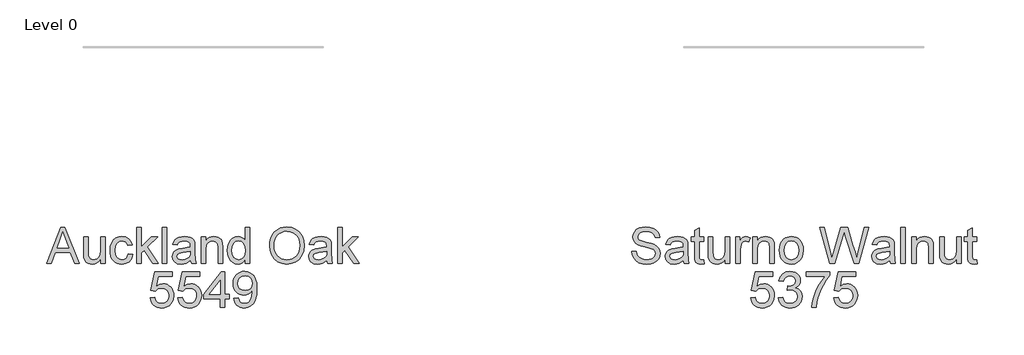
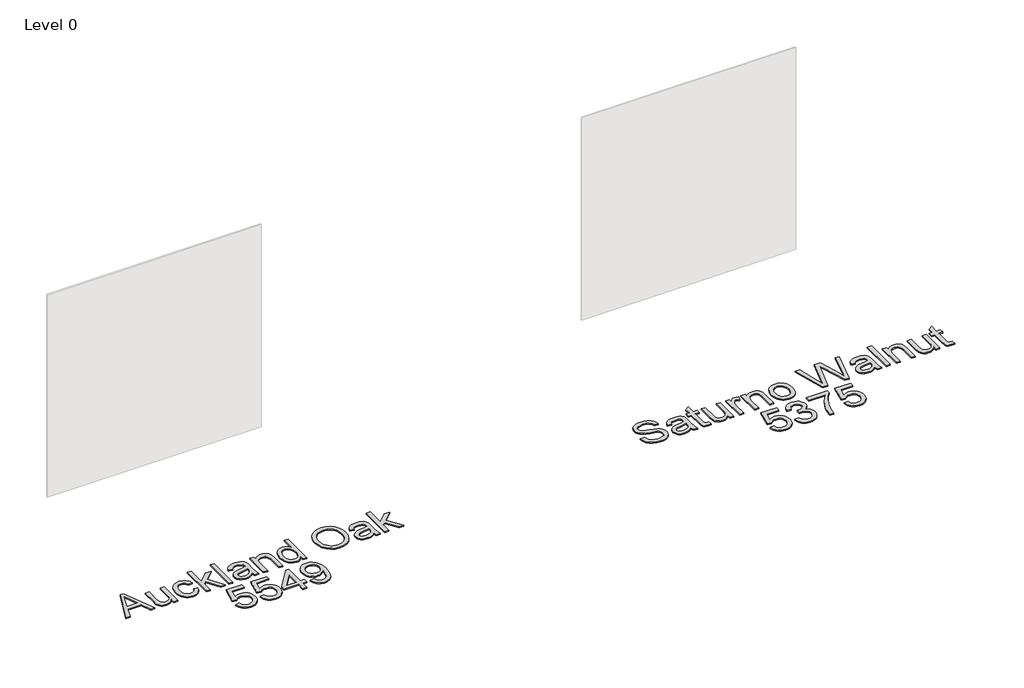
# One storey, part 6 of 16: 2 proxies.
"""IFC4 building model written with IfcOpenShell, lengths in millimetres."""

import ifcopenshell
import ifcopenshell.guid

model = None  # the IFC model being written
_history = None  # IfcOwnerHistory: only IFC2X3 demands one
_inside = {}  # id of a spatial element -> (the spatial element, [elements in it])
_under = {}  # id of a project, library or spatial element -> (it, [spatial elements below it])
_declared = {}  # id of a project -> (the project, [libraries it declares])
_typed = {}  # id of a type object -> (the type object, [elements of that type])
_made_of = {}  # id of a material, layer set ... -> (it, [elements and type objects made of it])


def new_model(schema):
    """Start an empty IFC model of exactly this schema.

    Asked for "IFC4X3", IfcOpenShell would pick the latest addendum, in which some entities
    have other attributes; the version numbers below select the first issue.
    IFC2X3 requires an IfcOwnerHistory on every rooted entity: one is made here for all.
    """
    global model, _history
    if schema == "IFC4X3":
        model = ifcopenshell.file(schema_version=(4, 3, 0, 0))
    else:
        model = ifcopenshell.file(schema=schema)
    _inside.clear()
    _under.clear()
    _declared.clear()
    _typed.clear()
    _made_of.clear()
    _history = None
    if model.schema == "IFC2X3":
        org = make("IfcOrganization", Name="unknown")
        user = make(
            "IfcPersonAndOrganization",
            ThePerson=make("IfcPerson", FamilyName="unknown"),
            TheOrganization=org,
        )
        app = make(
            "IfcApplication",
            ApplicationDeveloper=org,
            Version="unknown",
            ApplicationFullName="unknown",
            ApplicationIdentifier="unknown",
        )
        _history = make(
            "IfcOwnerHistory",
            OwningUser=user,
            OwningApplication=app,
            ChangeAction="ADDED",
            CreationDate=0,
        )
    return model


def make(cls, **values):
    """One entity of the class cls with the attributes given. An attribute that is None is left unset."""
    return model.create_entity(
        cls, **{name: value for name, value in values.items() if value is not None}
    )


def rooted(cls, **values):
    """An entity with a GlobalId (a new one), such as an element, a storey or a relation."""
    return make(cls, GlobalId=ifcopenshell.guid.new(), OwnerHistory=_history, **values)


def si_unit(unit_type, name, prefix=None):
    """IfcSIUnit, for example si_unit("LENGTHUNIT", "METRE", prefix="MILLI")."""
    return make("IfcSIUnit", UnitType=unit_type, Prefix=prefix, Name=name)


def assignment(units):
    """IfcUnitAssignment: the units of a project."""
    return None if units is None else make("IfcUnitAssignment", Units=units)


def point(xyz):
    """IfcCartesianPoint."""
    return None if xyz is None else make("IfcCartesianPoint", Coordinates=xyz)


def direction(xyz):
    """IfcDirection."""
    return None if xyz is None else make("IfcDirection", DirectionRatios=xyz)


def frame(location, z_axis=None, x_axis=None):
    """IfcAxis2Placement3D, a coordinate frame: its origin and axes. An axis left out is left unset."""
    return make(
        "IfcAxis2Placement3D",
        Location=point(location),
        Axis=direction(z_axis),
        RefDirection=direction(x_axis),
    )


def origin():
    """The frame at (0, 0, 0) with its axes left unset."""
    return frame((0.0, 0.0, 0.0))


def origin_with_axes():
    """The frame at (0, 0, 0) with the z axis (0, 0, 1) and the x axis (1, 0, 0) written out."""
    return frame((0.0, 0.0, 0.0), z_axis=(0.0, 0.0, 1.0), x_axis=(1.0, 0.0, 0.0))


def place(relative_to, where):
    """IfcLocalPlacement: puts the frame where relative to a parent placement (None: the world)."""
    return make(
        "IfcLocalPlacement", PlacementRelTo=relative_to, RelativePlacement=where
    )


def context(
    kind, dimensions, precision=None, world=None, true_north=None, identifier=None
):
    """IfcGeometricRepresentationContext, for example the 3D "Model" context."""
    return make(
        "IfcGeometricRepresentationContext",
        ContextIdentifier=identifier,
        ContextType=kind,
        CoordinateSpaceDimension=dimensions,
        Precision=precision,
        WorldCoordinateSystem=world,
        TrueNorth=true_north,
    )


def project(units=None, contexts=None):
    """IfcProject with its units and contexts."""
    return rooted(
        "IfcProject",
        Name="project",
        RepresentationContexts=contexts,
        UnitsInContext=assignment(units),
    )


def spatial(cls, under=None, at=None, **own):
    """A site, building, storey or space (cls), placed at a placement, below another one or the project."""
    s = rooted(cls, ObjectPlacement=at, **own)
    if under is not None:
        _under.setdefault(under.id(), (under, []))[1].append(s)
    return s


def polyline(points):
    """IfcPolyline through the points."""
    return make("IfcPolyline", Points=[point(p) for p in points])


def outline(outer, holes=None, kind="AREA"):
    """IfcArbitraryClosedProfileDef: a profile drawn as a closed curve; with holes, ...WithVoids."""
    if holes is None:
        return make("IfcArbitraryClosedProfileDef", ProfileType=kind, OuterCurve=outer)
    return make(
        "IfcArbitraryProfileDefWithVoids",
        ProfileType=kind,
        OuterCurve=outer,
        InnerCurves=holes,
    )


def extrude(swept, where, along, depth):
    """IfcExtrudedAreaSolid: the profile swept, set in the frame where, extruded along a direction by depth."""
    return make(
        "IfcExtrudedAreaSolid",
        SweptArea=swept,
        Position=where,
        ExtrudedDirection=direction(along),
        Depth=depth,
    )


def shape(context_of_items, identifier, shape_type, items):
    """IfcShapeRepresentation: the items that make up one representation, for example the "Body"."""
    return make(
        "IfcShapeRepresentation",
        ContextOfItems=context_of_items,
        RepresentationIdentifier=identifier,
        RepresentationType=shape_type,
        Items=items,
    )


def made_of(thing, what):
    """Note that an element or type object is made of a material, layer set ...; save() writes the relation."""
    if what is not None:
        _made_of.setdefault(what.id(), (what, []))[1].append(thing)
    return thing


def element(
    cls,
    number,
    at=None,
    inside=None,
    cuts=None,
    type_object=None,
    material=None,
    context=None,
    identifier="Body",
    shape_type=None,
    held_by="IfcProductDefinitionShape",
    body=None,
    shapes=None,
    **own,
):
    """One element of the class cls, such as IfcWall. Its Tag is "e" and its number.

    at: its placement. inside: the storey or other place that contains it. cuts: it is an
    opening in that element (IfcRelVoidsElement). A single representation is given by context,
    identifier, shape_type and body (its items); several are given by shapes. held_by: the class
    of the entity that holds the representations. save() writes the other relations.
    """
    e = rooted(cls, Tag="e%d" % number, ObjectPlacement=at, **own)
    if body is not None:
        shapes = [shape(context, identifier, shape_type, body)]
    if shapes is not None:
        e.Representation = make(held_by, Representations=shapes)
    if inside is not None:
        _inside.setdefault(inside.id(), (inside, []))[1].append(e)
    if cuts is not None:
        rooted(
            "IfcRelVoidsElement", RelatingBuildingElement=cuts, RelatedOpeningElement=e
        )
    if type_object is not None:
        _typed.setdefault(type_object.id(), (type_object, []))[1].append(e)
    return made_of(e, material)


def aggregate(whole, parts):
    """IfcRelAggregates: a whole, such as a stair, and the parts it consists of."""
    return rooted("IfcRelAggregates", RelatingObject=whole, RelatedObjects=parts)


def save(model, path):
    """Write the relations noted so far, then the file.

    IfcRelAggregates (storeys below a building ...), IfcRelContainedInSpatialStructure (elements
    in a storey), IfcRelDefinesByType, IfcRelAssociatesMaterial and IfcRelDeclares: one each for
    every whole, place, type object, material and project.
    """
    for whole, parts in _under.values():
        aggregate(whole, parts)
    for where, things in _inside.values():
        rooted(
            "IfcRelContainedInSpatialStructure",
            RelatedElements=things,
            RelatingStructure=where,
        )
    for kind, things in _typed.values():
        rooted("IfcRelDefinesByType", RelatedObjects=things, RelatingType=kind)
    for what, things in _made_of.values():
        rooted("IfcRelAssociatesMaterial", RelatedObjects=things, RelatingMaterial=what)
    for by, libraries in _declared.values():
        rooted("IfcRelDeclares", RelatingContext=by, RelatedDefinitions=libraries)
    model.write(path)


model = new_model("IFC4")

# Units and contexts
model_context = context("Model", 3, world=origin())
ifc_project = project(units=[si_unit("LENGTHUNIT", "METRE", prefix="MILLI")], contexts=[model_context])

# Site, building, storey
site = spatial("IfcSite", under=ifc_project)
building = spatial("IfcBuilding", under=site)
storey = spatial("IfcBuildingStorey", under=building, Name="Level 0", Elevation=0.0)

# Proxies
placement = place(None, origin())
element("IfcBuildingElementProxy", 1, Name="300mm Arial", ObjectType="300mm Arial", at=placement, inside=storey, context=model_context, shape_type="SweptSolid", body=[
    extrude(outline(polyline([(-10754.7997292, -12002.860494), (-10634.5023168, -11701.4915635), (-10602.4230068, -11701.4915635), (-10482.1255944, -12002.860494), (-10521.9304263, -12002.860494), (-10556.4377574, -11908.6827032), (-10680.5611426, -11908.6827032), (-10714.9948973, -12002.860494), (-10754.7997292, -12002.860494)]), holes=[polyline([(-10666.7287796, -11871.0115869), (-10570.196544, -11871.0115869), (-10597.3462353, -11796.9201531), (-10618.4626618, -11739.1626798), (-10637.2246436, -11790.44543), (-10666.7287796, -11871.0115869)])]), origin_with_axes(), (0.0, 0.0, 1.0), 10.0),
    extrude(outline(polyline([(-10305.3215075, -12002.860494), (-10305.3215075, -11964.8214957), (-10318.9515354, -11983.5236966), (-10334.8256435, -11996.8824116), (-10352.9438318, -12004.8976405), (-10373.3061002, -12007.5693835), (-10391.6542147, -12005.6931853), (-10408.7331363, -12000.0645908), (-10423.0621401, -11991.6033049), (-10433.1605008, -11981.2290327), (-10444.3809017, -11953.4907302), (-10446.5881937, -11918.4683643), (-10446.5881937, -11781.5426857), (-10408.9170773, -11781.5426857), (-10408.9170773, -11900.7364521), (-10406.636209, -11939.1433324), (-10401.1455702, -11951.9548229), (-10391.7369882, -11961.6944987), (-10379.0358623, -11967.8473251), (-10363.6675919, -11969.8982672), (-10347.4164048, -11967.8013398), (-10332.2136813, -11961.5105577), (-10319.6781024, -11951.605335), (-10311.4283486, -11938.6650858), (-10306.8482178, -11920.9423707), (-10305.3215075, -11896.6897502), (-10305.3215075, -11781.5426857), (-10267.6503912, -11781.5426857), (-10267.6503912, -12002.860494), (-10305.3215075, -12002.860494)])), origin_with_axes(), (0.0, 0.0, 1.0), 10.0),
    extrude(outline(polyline([(-10074.5859201, -11922.8093718), (-10036.9148038, -11927.5182614), (-10047.4178348, -11961.0231141), (-10067.1547038, -11986.3425924), (-10094.2676069, -12002.2626857), (-10126.8987398, -12007.5693835), (-10148.0266627, -12005.7184772), (-10166.9702862, -12000.1657584), (-10183.7296103, -11990.9112269), (-10198.3046351, -11977.9548829), (-10210.1021508, -11961.5404481), (-10218.5289478, -11941.9116444), (-10223.585026, -11919.0684718), (-10225.2703854, -11893.0109302), (-10222.3917087, -11859.4876834), (-10213.7556789, -11830.4342028), (-10199.2243401, -11806.9725286), (-10178.6597366, -11790.2247008), (-10154.0576281, -11780.1815223), (-10127.4137746, -11776.8337961), (-10095.582785, -11781.4323211), (-10070.134548, -11795.2278959), (-10051.878404, -11817.4847566), (-10041.6236934, -11847.4671392), (-10079.2948097, -11852.1760288), (-10086.1282177, -11835.7409006), (-10096.7692044, -11823.9594797), (-10110.6291586, -11816.8685543), (-10127.119469, -11814.5049125), (-10151.4640601, -11819.1586197), (-10170.7870619, -11833.1197414), (-10183.3962173, -11857.1424357), (-10187.599269, -11891.9808606), (-10183.4881877, -11927.2883351), (-10171.1549439, -11951.3938029), (-10152.18143, -11965.2721511), (-10128.1495386, -11969.8982672), (-10108.6425958, -11967.0103936), (-10092.6489261, -11958.3467726), (-10081.014658, -11943.6866751), (-10074.5859201, -11922.8093718)])), origin_with_axes(), (0.0, 0.0, 1.0), 10.0),
    extrude(outline(polyline([(-10003.9525771, -12002.860494), (-10003.9525771, -11701.4915635), (-9966.2814607, -11701.4915635), (-9966.2814607, -11863.4332178), (-9881.8157547, -11781.5426857), (-9829.7236641, -11781.5426857), (-9915.2194398, -11864.4632874), (-9825.0147746, -12002.860494), (-9869.0134612, -12002.860494), (-9942.2219783, -11890.6564855), (-9966.2814607, -11913.9802039), (-9966.2814607, -12002.860494), (-10003.9525771, -12002.860494)])), origin_with_axes(), (0.0, 0.0, 1.0), 10.0),
    extrude(outline(polyline([(-9792.0525478, -12002.860494), (-9792.0525478, -11701.4915635), (-9754.3814315, -11701.4915635), (-9754.3814315, -12002.860494), (-9792.0525478, -12002.860494)])), origin_with_axes(), (0.0, 0.0, 1.0), 10.0),
    extrude(outline(polyline([(-9556.6080709, -11974.6071568), (-9574.6066975, -11990.0398064), (-9593.138753, -12000.1381672), (-9612.6273017, -12005.7115794), (-9633.4954079, -12007.5693835), (-9664.9769096, -12003.0996173), (-9688.1994606, -11989.6903186), (-9702.5192673, -11969.3280501), (-9707.2925361, -11943.9993748), (-9705.4899144, -11928.3827841), (-9700.082049, -11914.2009331), (-9691.7403248, -11902.0608273), (-9681.1361263, -11892.5694718), (-9654.7589872, -11880.2086368), (-9622.1646425, -11874.5432541), (-9583.6473976, -11868.5835657), (-9556.8288001, -11861.5938078), (-9556.6080709, -11853.2060983), (-9559.201639, -11836.3938912), (-9566.9823432, -11825.3942195), (-9584.3831616, -11817.2272392), (-9608.626585, -11814.5049125), (-9631.0673867, -11816.3167313), (-9646.7391597, -11821.7521878), (-9657.4261317, -11831.8045633), (-9664.9125303, -11847.4671392), (-9702.5836466, -11842.7582497), (-9696.0445441, -11822.156858), (-9686.2864742, -11805.9700502), (-9672.3989289, -11793.590821), (-9653.4714002, -11784.4121652), (-9630.3224257, -11778.7283884), (-9603.7705427, -11776.8337961), (-9578.3039116, -11778.5076592), (-9558.1163871, -11783.5292485), (-9542.8952695, -11791.0800264), (-9532.3278592, -11800.3414556), (-9525.3197072, -11811.7917827), (-9520.7763646, -11825.9092543), (-9518.9369546, -11858.8714811), (-9518.9369546, -11905.7396473), (-9517.0239682, -11971.1858542), (-9509.5191755, -12002.860494), (-9547.1902918, -12002.860494), (-9556.6080709, -11974.6071568)]), holes=[polyline([(-9556.6080709, -11899.2649241), (-9617.3821765, -11910.8164188), (-9649.7925803, -11916.9232599), (-9664.4710719, -11926.8560738), (-9669.6214198, -11941.3506244), (-9666.8163196, -11952.5526311), (-9658.401019, -11961.7312869), (-9644.5594589, -11967.8565221), (-9625.4755804, -11969.8982672), (-9605.2420707, -11967.64499), (-9587.3630057, -11960.8851583), (-9572.8684551, -11950.9247533), (-9562.7884884, -11939.069756), (-9558.3187222, -11926.8560738), (-9556.8288001, -11909.933502), (-9556.6080709, -11899.2649241)])]), origin_with_axes(), (0.0, 0.0, 1.0), 10.0),
    extrude(outline(polyline([(-9467.1391697, -12002.860494), (-9467.1391697, -11781.5426857), (-9429.4680534, -11781.5426857), (-9429.4680534, -11812.4447733), (-9416.3806514, -11796.8649708), (-9400.6628932, -11785.7365404), (-9382.3147787, -11779.0594822), (-9361.3363079, -11776.8337961), (-9342.7674642, -11778.6272209), (-9325.7621189, -11784.0074951), (-9311.580268, -11792.303234), (-9301.4819073, -11802.8430532), (-9290.18793, -11830.5445674), (-9288.2013672, -11866.964885), (-9288.2013672, -12002.860494), (-9325.8724835, -12002.860494), (-9325.8724835, -11872.0416565), (-9330.2134911, -11838.7115477), (-9336.2191647, -11828.7879309), (-9345.5541703, -11821.0900002), (-9357.5195322, -11816.1511844), (-9371.4162745, -11814.5049125), (-9393.4799972, -11818.2021265), (-9412.2879642, -11829.2937687), (-9419.8042532, -11838.3482643), (-9425.1730311, -11850.7228949), (-9429.4680534, -11885.4325611), (-9429.4680534, -12002.860494), (-9467.1391697, -12002.860494)])), origin_with_axes(), (0.0, 0.0, 1.0), 10.0),
    extrude(outline(polyline([(-9099.8457857, -12002.860494), (-9099.8457857, -11967.3230932), (-9111.1167703, -11984.9308452), (-9124.7697909, -11997.507811), (-9140.8048473, -12005.0539904), (-9159.2219397, -12007.5693835), (-9183.5757278, -12003.9273518), (-9205.8693767, -11993.0012565), (-9224.7417231, -11975.5544529), (-9238.8316035, -11952.350296), (-9247.6055891, -11924.3268851), (-9250.5302509, -11892.422319), (-9247.8355153, -11860.9132261), (-9239.7513085, -11832.4575538), (-9226.2868274, -11808.6739828), (-9207.4512693, -11791.181194), (-9184.6701767, -11780.4206456), (-9159.3690925, -11776.8337961), (-9140.9382046, -11779.3997731), (-9124.6410322, -11787.0977038), (-9110.8270633, -11798.8975188), (-9099.8457857, -11813.7691485), (-9099.8457857, -11701.4915635), (-9062.1746694, -11701.4915635), (-9062.1746694, -12002.860494), (-9099.8457857, -12002.860494)]), holes=[polyline([(-9212.8591346, -11892.2751662), (-9208.6100976, -11926.350236), (-9195.8629864, -11950.5844625), (-9177.340128, -11965.069816), (-9155.763849, -11969.8982672), (-9134.196767, -11965.2905452), (-9116.1429581, -11951.4673793), (-9103.9200788, -11928.1712519), (-9099.8457857, -11895.1446458), (-9103.9936552, -11859.037028), (-9116.4372637, -11834.0026582), (-9134.9509251, -11819.3793489), (-9157.3089534, -11814.5049125), (-9179.1059616, -11819.1862108), (-9196.9666324, -11833.230106), (-9208.8860091, -11857.3539678), (-9212.8591346, -11892.2751662)])]), origin_with_axes(), (0.0, 0.0, 1.0), 10.0),
    extrude(outline(polyline([(-8897.3635356, -11856.1491543), (-8894.8527409, -11820.8002931), (-8887.3203571, -11789.5073309), (-8874.766384, -11762.2702677), (-8857.1908217, -11739.0891034), (-8835.6467323, -11720.5800406), (-8811.1871782, -11707.3592814), (-8783.8121592, -11699.4268258), (-8753.5216754, -11696.782674), (-8713.9927551, -11701.7490809), (-8678.5473248, -11716.6483017), (-8649.1167652, -11740.4318727), (-8627.6324567, -11772.0513302), (-8614.4990695, -11809.9799639), (-8610.1212737, -11852.6910636), (-8614.7289957, -11895.9723803), (-8628.5521617, -11934.4344429), (-8650.8274165, -11966.1090827), (-8680.791405, -11989.028131), (-8715.9333326, -12002.9340704), (-8753.7424046, -12007.5693835), (-8793.8783303, -12002.4466267), (-8829.5260957, -11987.0783564), (-8858.8830789, -11962.853327), (-8880.1466582, -11931.1602931), (-8893.0593162, -11894.6939903), (-8897.3635356, -11856.1491543)]), holes=[polyline([(-8859.6924193, -11856.5170363), (-8857.8093233, -11881.4916252), (-8852.1600354, -11903.661114), (-8842.7445556, -11923.0255025), (-8829.5628839, -11939.5847908), (-8813.5393237, -11952.8469367), (-8795.5981786, -11962.3198981), (-8775.7394487, -11968.0036749), (-8753.9631338, -11969.8982672), (-8731.8143385, -11967.9852808), (-8711.7210837, -11962.2463217), (-8693.6833697, -11952.6813898), (-8677.7011962, -11939.2904852), (-8664.6160935, -11922.381709), (-8655.2695916, -11902.2631624), (-8649.6616904, -11878.9348454), (-8647.79239, -11852.396758), (-8650.9929634, -11819.0482551), (-8660.5946835, -11790.2247008), (-8676.3492299, -11766.6526619), (-8698.0082824, -11749.0587055), (-8724.1371011, -11738.1050191), (-8753.3009463, -11734.4537903), (-8774.3208037, -11736.2127261), (-8793.823148, -11741.4895335), (-8811.8079791, -11750.2842124), (-8828.2752969, -11762.5967629), (-8842.0202879, -11779.0203948), (-8851.8381387, -11800.1483176), (-8857.7288491, -11825.9805314), (-8859.6924193, -11856.5170363)])]), origin_with_axes(), (0.0, 0.0, 1.0), 10.0),
    extrude(outline(polyline([(-8421.7656922, -11974.6071568), (-8439.7643188, -11990.0398064), (-8458.2963743, -12000.1381672), (-8477.784923, -12005.7115794), (-8498.6530292, -12007.5693835), (-8530.1345309, -12003.0996173), (-8553.3570819, -11989.6903186), (-8567.6768885, -11969.3280501), (-8572.4501574, -11943.9993748), (-8570.6475356, -11928.3827841), (-8565.2396703, -11914.2009331), (-8556.8979461, -11902.0608273), (-8546.2937476, -11892.5694718), (-8519.9166085, -11880.2086368), (-8487.3222637, -11874.5432541), (-8448.8050188, -11868.5835657), (-8421.9864214, -11861.5938078), (-8421.7656922, -11853.2060983), (-8424.3592603, -11836.3938912), (-8432.1399645, -11825.3942195), (-8449.5407828, -11817.2272392), (-8473.7842063, -11814.5049125), (-8496.225008, -11816.3167313), (-8511.896781, -11821.7521878), (-8522.583753, -11831.8045633), (-8530.0701516, -11847.4671392), (-8567.7412679, -11842.7582497), (-8561.2021654, -11822.156858), (-8551.4440955, -11805.9700502), (-8537.5565502, -11793.590821), (-8518.6290215, -11784.4121652), (-8495.480047, -11778.7283884), (-8468.928164, -11776.8337961), (-8443.4615329, -11778.5076592), (-8423.2740084, -11783.5292485), (-8408.0528908, -11791.0800264), (-8397.4854805, -11800.3414556), (-8390.4773285, -11811.7917827), (-8385.9339859, -11825.9092543), (-8384.0945759, -11858.8714811), (-8384.0945759, -11905.7396473), (-8382.1815895, -11971.1858542), (-8374.6767968, -12002.860494), (-8412.3479131, -12002.860494), (-8421.7656922, -11974.6071568)]), holes=[polyline([(-8421.7656922, -11899.2649241), (-8482.5397978, -11910.8164188), (-8514.9502016, -11916.9232599), (-8529.6286932, -11926.8560738), (-8534.7790411, -11941.3506244), (-8531.9739409, -11952.5526311), (-8523.5586403, -11961.7312869), (-8509.7170802, -11967.8565221), (-8490.6332017, -11969.8982672), (-8470.399692, -11967.64499), (-8452.520627, -11960.8851583), (-8438.0260764, -11950.9247533), (-8427.9461097, -11939.069756), (-8423.4763435, -11926.8560738), (-8421.9864214, -11909.933502), (-8421.7656922, -11899.2649241)])]), origin_with_axes(), (0.0, 0.0, 1.0), 10.0),
    extrude(outline(polyline([(-8332.296791, -12002.860494), (-8332.296791, -11701.4915635), (-8294.6256747, -11701.4915635), (-8294.6256747, -11863.4332178), (-8210.1599686, -11781.5426857), (-8158.0678781, -11781.5426857), (-8243.5636537, -11864.4632874), (-8153.3589885, -12002.860494), (-8197.3576751, -12002.860494), (-8270.5661922, -11890.6564855), (-8294.6256747, -11913.9802039), (-8294.6256747, -12002.860494), (-8332.296791, -12002.860494)])), origin_with_axes(), (0.0, 0.0, 1.0), 10.0),
    extrude(outline(polyline([(-9893.2936729, -12288.7338254), (-9855.6225566, -12284.0249358), (-9848.7063751, -12306.6404815), (-9836.6398456, -12322.8364863), (-9819.4781506, -12332.5761621), (-9797.2764722, -12335.8227207), (-9770.2739337, -12331.3069693), (-9750.040424, -12317.7597148), (-9737.4036774, -12296.7444558), (-9733.1914286, -12269.8246908), (-9737.136963, -12244.4776213), (-9748.9735662, -12225.0902402), (-9768.7932087, -12212.7845875), (-9796.687861, -12208.6827032), (-9814.9623991, -12210.3197781), (-9829.7604523, -12215.2310027), (-9850.9136671, -12232.2271509), (-9888.5847834, -12227.5182614), (-9855.6225566, -12072.1249066), (-9709.6469809, -12072.1249066), (-9709.6469809, -12109.7960229), (-9825.1619274, -12109.7960229), (-9841.2751588, -12192.790201), (-9814.3645908, -12176.4562404), (-9786.1664359, -12171.0115869), (-9767.8206207, -12172.6992456), (-9750.969326, -12177.7622215), (-9735.612552, -12186.2005148), (-9721.7502986, -12198.0141254), (-9710.2746796, -12212.4810848), (-9702.0778089, -12228.8794248), (-9697.1596864, -12247.2091452), (-9695.5203123, -12267.470246), (-9701.4248183, -12305.1413624), (-9708.8054508, -12321.9351754), (-9719.1383364, -12337.3678251), (-9734.7917153, -12353.1729553), (-9753.0570563, -12364.4623341), (-9773.9343596, -12371.2359613), (-9797.423625, -12373.4938371), (-9834.4233566, -12367.6904986), (-9850.1020274, -12360.4363255), (-9863.8999015, -12350.2804832), (-9875.380119, -12337.7288093), (-9884.1058201, -12323.2871418), (-9893.2936729, -12288.7338254)])), origin_with_axes(), (0.0, 0.0, 1.0), 10.0),
    extrude(outline(polyline([(-9662.5580855, -12288.7338254), (-9624.8869692, -12284.0249358), (-9617.9707877, -12306.6404815), (-9605.9042583, -12322.8364863), (-9588.7425632, -12332.5761621), (-9566.5408848, -12335.8227207), (-9539.5383463, -12331.3069693), (-9519.3048366, -12317.7597148), (-9506.6680901, -12296.7444558), (-9502.4558412, -12269.8246908), (-9506.4013756, -12244.4776213), (-9518.2379788, -12225.0902402), (-9538.0576213, -12212.7845875), (-9565.9522736, -12208.6827032), (-9584.2268117, -12210.3197781), (-9599.024865, -12215.2310027), (-9620.1780797, -12232.2271509), (-9657.849196, -12227.5182614), (-9624.8869692, -12072.1249066), (-9478.9113935, -12072.1249066), (-9478.9113935, -12109.7960229), (-9594.42634, -12109.7960229), (-9610.5395714, -12192.790201), (-9583.6290035, -12176.4562404), (-9555.4308485, -12171.0115869), (-9537.0850333, -12172.6992456), (-9520.2337386, -12177.7622215), (-9504.8769646, -12186.2005148), (-9491.0147112, -12198.0141254), (-9479.5390922, -12212.4810848), (-9471.3422215, -12228.8794248), (-9466.4240991, -12247.2091452), (-9464.7847249, -12267.470246), (-9470.6892309, -12305.1413624), (-9478.0698635, -12321.9351754), (-9488.402749, -12337.3678251), (-9504.0561279, -12353.1729553), (-9522.321469, -12364.4623341), (-9543.1987722, -12371.2359613), (-9566.6880376, -12373.4938371), (-9603.6877693, -12367.6904986), (-9619.36644, -12360.4363255), (-9633.1643141, -12350.2804832), (-9644.6445316, -12337.7288093), (-9653.3702327, -12323.2871418), (-9662.5580855, -12288.7338254)])), origin_with_axes(), (0.0, 0.0, 1.0), 10.0),
    extrude(outline(polyline([(-9309.3913702, -12368.7849475), (-9309.3913702, -12298.1516044), (-9445.9491668, -12298.1516044), (-9445.9491668, -12260.4804881), (-9299.9735911, -12072.1249066), (-9271.7202539, -12072.1249066), (-9271.7202539, -12260.4804881), (-9234.0491375, -12260.4804881), (-9234.0491375, -12298.1516044), (-9271.7202539, -12298.1516044), (-9271.7202539, -12368.7849475), (-9309.3913702, -12368.7849475)]), holes=[polyline([(-9309.3913702, -12260.4804881), (-9309.3913702, -12144.0826249), (-9399.5960354, -12260.4804881), (-9309.3913702, -12260.4804881)])]), origin_with_axes(), (0.0, 0.0, 1.0), 10.0),
    extrude(outline(polyline([(-9196.3780212, -12293.4427149), (-9158.7069049, -12288.7338254), (-9152.26897, -12310.1169663), (-9141.7843332, -12324.6758963), (-9127.5105117, -12333.0360146), (-9109.7050232, -12335.8227207), (-9093.7297475, -12334.029296), (-9079.2076058, -12328.6490218), (-9067.1410763, -12320.2705094), (-9058.5326376, -12309.4823699), (-9046.2085908, -12276.7408723), (-9040.7639373, -12233.0364913), (-9040.9846665, -12225.6788514), (-9054.0352803, -12241.6081418), (-9071.1142019, -12254.2264942), (-9090.9890267, -12262.4486568), (-9112.4273499, -12265.1893777), (-9130.3225097, -12263.5155146), (-9146.7783312, -12258.4939254), (-9161.7948144, -12250.12461), (-9175.3719593, -12238.4075684), (-9186.6222506, -12223.9544045), (-9194.6581729, -12207.3767221), (-9199.4797263, -12188.6745212), (-9201.0869108, -12167.8478018), (-9199.4015514, -12146.326705), (-9194.3454732, -12127.0129003), (-9185.9186763, -12109.9063875), (-9174.1211605, -12095.0071667), (-9159.785259, -12082.9360387), (-9143.7433048, -12074.3138045), (-9125.9952978, -12069.1404639), (-9106.541238, -12067.4160171), (-9078.4442506, -12071.3523544), (-9052.8672549, -12083.1613665), (-9031.4749169, -12102.254442), (-9015.9319026, -12128.0429699), (-9006.4681383, -12163.6907352), (-9003.3135502, -12212.3615232), (-9006.4589412, -12263.96617), (-9015.8951144, -12303.8537754), (-9031.5392963, -12333.8269609), (-9053.3087133, -12355.6883485), (-9080.2652665, -12369.0424649), (-9111.4708568, -12373.4938371), (-9143.6789254, -12368.2423216), (-9169.3754828, -12352.4877751), (-9187.3465183, -12327.2234791), (-9196.3780212, -12293.4427149)]), holes=[polyline([(-9040.9846665, -12166.964885), (-9045.0497625, -12141.4338745), (-9057.2450507, -12121.788976), (-9076.1725793, -12109.262594), (-9100.4343969, -12105.0871334), (-9125.5975254, -12109.5844908), (-9145.7574587, -12123.0765629), (-9159.0012105, -12143.7239399), (-9163.4157945, -12169.6872117), (-9159.2403338, -12192.964945), (-9146.7139519, -12211.4418182), (-9127.0506593, -12223.4991506), (-9101.4644665, -12227.5182614), (-9077.395787, -12223.4991506), (-9058.0176029, -12211.4418182), (-9045.2429006, -12192.2843633), (-9040.9846665, -12166.964885)])]), origin_with_axes(), (0.0, 0.0, 1.0), 10.0),
])
element("IfcBuildingElementProxy", 2, Name="300mm Arial", ObjectType="300mm Arial", at=placement, inside=storey, context=model_context, shape_type="SweptSolid", body=[
    extrude(outline(polyline([(-5882.1604759, -11899.2649241), (-5844.4893596, -11899.2649241), (-5840.1667462, -11920.1698185), (-5832.3492538, -11936.9728286), (-5820.1539657, -11950.308551), (-5802.697965, -11960.8115819), (-5781.3608093, -11967.6265959), (-5757.522056, -11969.8982672), (-5736.5343881, -11968.1784189), (-5718.1586825, -11963.0188739), (-5703.2686587, -11954.8518936), (-5692.7380366, -11944.1097394), (-5686.4748457, -11931.7764955), (-5684.3871153, -11918.8362463), (-5685.9506138, -11906.2270909), (-5690.6411093, -11895.3285868), (-5700.1692529, -11886.0303694), (-5716.2456961, -11878.222074), (-5771.0969016, -11863.837888), (-5807.1033519, -11854.3189414), (-5830.1419618, -11845.2598472), (-5848.8947465, -11832.5863125), (-5862.1844836, -11817.2272392), (-5870.1031435, -11799.5137211), (-5872.7426969, -11779.7768521), (-5869.4777442, -11757.7131294), (-5859.682886, -11737.1393289), (-5843.6156399, -11719.7017223), (-5821.5335231, -11707.0465817), (-5795.0276254, -11699.3486509), (-5765.6890363, -11696.782674), (-5733.9040319, -11699.4682126), (-5706.092153, -11707.5248283), (-5683.2466811, -11720.7869742), (-5666.3608976, -11739.0891034), (-5655.6739256, -11761.2907818), (-5651.4248886, -11786.2515752), (-5689.0960049, -11786.2515752), (-5696.0121864, -11763.7739853), (-5710.4331606, -11747.5503893), (-5732.9659328, -11737.7279401), (-5764.2175083, -11734.4537903), (-5796.2048478, -11737.6911519), (-5818.1490088, -11747.4032365), (-5830.8409376, -11761.695452), (-5835.0715806, -11778.6732061), (-5832.0733423, -11793.1493626), (-5823.0786275, -11804.7928278), (-5801.8150482, -11815.2038882), (-5761.5687579, -11825.8356779), (-5720.0348807, -11835.9340387), (-5694.9085404, -11844.7448125), (-5673.4334289, -11858.4116286), (-5658.4514347, -11875.2790181), (-5649.6498579, -11895.1630399), (-5646.715999, -11917.8797531), (-5650.0913163, -11941.102304), (-5660.2172682, -11962.9452975), (-5676.6799875, -11981.7440675), (-5699.0656069, -11995.8339479), (-5725.9853719, -12004.6355246), (-5756.050528, -12007.5693835), (-5792.9582892, -12004.4055984), (-5823.3361449, -11994.9142429), (-5847.5335831, -11979.0585289), (-5865.9000918, -11956.8016682), (-5877.6907097, -11929.6887651), (-5882.1604759, -11899.2649241)])), origin_with_axes(), (0.0, 0.0, 1.0), 10.0),
    extrude(outline(polyline([(-5453.651528, -11974.6071568), (-5471.6501546, -11990.0398064), (-5490.1822101, -12000.1381672), (-5509.6707588, -12005.7115794), (-5530.5388649, -12007.5693835), (-5562.0203667, -12003.0996173), (-5585.2429176, -11989.6903186), (-5599.5627243, -11969.3280501), (-5604.3359932, -11943.9993748), (-5602.5333714, -11928.3827841), (-5597.1255061, -11914.2009331), (-5588.7837818, -11902.0608273), (-5578.1795833, -11892.5694718), (-5551.8024443, -11880.2086368), (-5519.2080995, -11874.5432541), (-5480.6908546, -11868.5835657), (-5453.8722572, -11861.5938078), (-5453.651528, -11853.2060983), (-5456.245096, -11836.3938912), (-5464.0258002, -11825.3942195), (-5481.4266186, -11817.2272392), (-5505.6700421, -11814.5049125), (-5528.1108438, -11816.3167313), (-5543.7826168, -11821.7521878), (-5554.4695887, -11831.8045633), (-5561.9559873, -11847.4671392), (-5599.6271036, -11842.7582497), (-5593.0880012, -11822.156858), (-5583.3299313, -11805.9700502), (-5569.4423859, -11793.590821), (-5550.5148573, -11784.4121652), (-5527.3658827, -11778.7283884), (-5500.8139997, -11776.8337961), (-5475.3473686, -11778.5076592), (-5455.1598441, -11783.5292485), (-5439.9387266, -11791.0800264), (-5429.3713163, -11800.3414556), (-5422.3631643, -11811.7917827), (-5417.8198216, -11825.9092543), (-5415.9804117, -11858.8714811), (-5415.9804117, -11905.7396473), (-5414.0674253, -11971.1858542), (-5406.5626326, -12002.860494), (-5444.2337489, -12002.860494), (-5453.651528, -11974.6071568)]), holes=[polyline([(-5453.651528, -11899.2649241), (-5514.4256336, -11910.8164188), (-5546.8360373, -11916.9232599), (-5561.5145289, -11926.8560738), (-5566.6648769, -11941.3506244), (-5563.8597767, -11952.5526311), (-5555.444476, -11961.7312869), (-5541.602916, -11967.8565221), (-5522.5190375, -11969.8982672), (-5502.2855277, -11967.64499), (-5484.4064628, -11960.8851583), (-5469.9119121, -11950.9247533), (-5459.8319455, -11939.069756), (-5455.3621792, -11926.8560738), (-5453.8722572, -11909.933502), (-5453.651528, -11899.2649241)])]), origin_with_axes(), (0.0, 0.0, 1.0), 10.0),
    extrude(outline(polyline([(-5284.1315046, -11971.4433716), (-5279.422615, -12003.96414), (-5307.6023759, -12007.5693835), (-5325.6837759, -12006.005885), (-5339.1666511, -12001.3153896), (-5348.6947947, -11994.0865084), (-5354.9120005, -11984.9078526), (-5358.333303, -11969.1441091), (-5359.4737372, -11942.1599648), (-5359.4737372, -11819.213802), (-5387.7270744, -11819.213802), (-5387.7270744, -11781.5426857), (-5359.4737372, -11781.5426857), (-5359.4737372, -11727.758338), (-5321.8026209, -11705.6118419), (-5321.8026209, -11781.5426857), (-5284.1315046, -11781.5426857), (-5284.1315046, -11819.213802), (-5321.8026209, -11819.213802), (-5321.8026209, -11941.0563188), (-5319.8160581, -11960.4804881), (-5313.3781232, -11967.3598814), (-5300.5390416, -11969.8982672), (-5284.1315046, -11971.4433716)])), origin_with_axes(), (0.0, 0.0, 1.0), 10.0),
    extrude(outline(polyline([(-5105.1937021, -12002.860494), (-5105.1937021, -11964.8214957), (-5118.82373, -11983.5236966), (-5134.6978381, -11996.8824116), (-5152.8160264, -12004.8976405), (-5173.1782948, -12007.5693835), (-5191.5264093, -12005.6931853), (-5208.605331, -12000.0645908), (-5222.9343347, -11991.6033049), (-5233.0326954, -11981.2290327), (-5244.2530963, -11953.4907302), (-5246.4603883, -11918.4683643), (-5246.4603883, -11781.5426857), (-5208.789272, -11781.5426857), (-5208.789272, -11900.7364521), (-5206.5084036, -11939.1433324), (-5201.0177648, -11951.9548229), (-5191.6091828, -11961.6944987), (-5178.9080569, -11967.8473251), (-5163.5397866, -11969.8982672), (-5147.2885994, -11967.8013398), (-5132.085876, -11961.5105577), (-5119.550297, -11951.605335), (-5111.3005432, -11938.6650858), (-5106.7204124, -11920.9423707), (-5105.1937021, -11896.6897502), (-5105.1937021, -11781.5426857), (-5067.5225858, -11781.5426857), (-5067.5225858, -12002.860494), (-5105.1937021, -12002.860494)])), origin_with_axes(), (0.0, 0.0, 1.0), 10.0),
    extrude(outline(polyline([(-5015.7248009, -12002.860494), (-5015.7248009, -11781.5426857), (-4982.7625741, -11781.5426857), (-4982.7625741, -11814.2841833), (-4970.5856801, -11795.3014723), (-4959.3652792, -11784.1178596), (-4948.1080902, -11778.654812), (-4935.8208315, -11776.8337961), (-4917.0588498, -11779.7400639), (-4898.0025624, -11788.4588672), (-4910.5841267, -11822.2304343), (-4923.8278785, -11816.4362929), (-4937.0716303, -11814.5049125), (-4948.3196223, -11816.3627165), (-4958.3719979, -11821.9361288), (-4966.4929929, -11830.8020848), (-4971.9468435, -11842.5375205), (-4976.5269743, -11863.5803706), (-4978.0536846, -11886.5362071), (-4978.0536846, -12002.860494), (-5015.7248009, -12002.860494)])), origin_with_axes(), (0.0, 0.0, 1.0), 10.0),
    extrude(outline(polyline([(-4874.4581148, -12002.860494), (-4874.4581148, -11781.5426857), (-4836.7869984, -11781.5426857), (-4836.7869984, -11812.4447733), (-4823.6995965, -11796.8649708), (-4807.9818382, -11785.7365404), (-4789.6337237, -11779.0594822), (-4768.6552529, -11776.8337961), (-4750.0864092, -11778.6272209), (-4733.081064, -11784.0074951), (-4718.8992131, -11792.303234), (-4708.8008523, -11802.8430532), (-4697.5068751, -11830.5445674), (-4695.5203123, -11866.964885), (-4695.5203123, -12002.860494), (-4733.1914286, -12002.860494), (-4733.1914286, -11872.0416565), (-4737.5324361, -11838.7115477), (-4743.5381097, -11828.7879309), (-4752.8731153, -11821.0900002), (-4764.8384772, -11816.1511844), (-4778.7352196, -11814.5049125), (-4800.7989423, -11818.2021265), (-4819.6069093, -11829.2937687), (-4827.1231983, -11838.3482643), (-4832.4919762, -11850.7228949), (-4836.7869984, -11885.4325611), (-4836.7869984, -12002.860494), (-4874.4581148, -12002.860494)])), origin_with_axes(), (0.0, 0.0, 1.0), 10.0),
    extrude(outline(polyline([(-4653.1403065, -11892.2015898), (-4651.1031599, -11863.5389839), (-4644.9917203, -11838.8403064), (-4634.8059875, -11818.1055575), (-4620.5459617, -11801.334737), (-4606.1893668, -11790.6155754), (-4590.3428499, -11782.9590314), (-4573.0064109, -11778.3651049), (-4554.1800498, -11776.8337961), (-4533.3970163, -11778.698498), (-4514.6051441, -11784.2926036), (-4497.8044333, -11793.6161129), (-4482.9948837, -11806.669026), (-4470.9076609, -11823.0098843), (-4462.2739303, -11842.1972296), (-4457.093692, -11864.2310619), (-4455.3669458, -11889.1113811), (-4458.4203664, -11927.1687735), (-4467.5806281, -11956.1394806), (-4482.5810164, -11977.8353213), (-4503.154817, -11994.0681143), (-4527.5913785, -12004.1940662), (-4554.1800498, -12007.5693835), (-4575.2665859, -12005.7115794), (-4594.233202, -12000.1381672), (-4611.0798981, -11990.8491468), (-4625.8066742, -11977.8445183), (-4637.7651383, -11961.3450108), (-4646.3068984, -11941.5713536), (-4651.4319544, -11918.5235466), (-4653.1403065, -11892.2015898)]), holes=[polyline([(-4615.4691901, -11892.1280134), (-4611.1097885, -11926.2214773), (-4598.0315836, -11950.5108861), (-4578.3498968, -11965.0514219), (-4554.1800498, -11969.8982672), (-4530.1205673, -11965.0238308), (-4510.4756687, -11950.4005215), (-4497.3974638, -11925.789216), (-4493.0380622, -11890.950791), (-4497.4250549, -11857.8506085), (-4510.5860333, -11833.8922936), (-4530.258523, -11819.3517577), (-4554.1800498, -11814.5049125), (-4578.3498968, -11819.3333636), (-4598.0315836, -11833.8187172), (-4611.1097885, -11858.0529436), (-4615.4691901, -11892.1280134)])]), origin_with_axes(), (0.0, 0.0, 1.0), 10.0),
    extrude(outline(polyline([(-4236.6243115, -12002.860494), (-4318.8091492, -11701.4915635), (-4279.9608105, -11701.4915635), (-4232.283304, -11899.5592297), (-4217.5680242, -11960.7012173), (-4201.8226748, -11906.622564), (-4142.0786388, -11701.4915635), (-4086.0869991, -11701.4915635), (-4042.6769237, -11850.189466), (-4024.0804888, -11905.3717653), (-4010.3768845, -11960.7012173), (-3996.1030631, -11901.3250633), (-3947.9840981, -11701.4915635), (-3909.1357594, -11701.4915635), (-3991.3941735, -12002.860494), (-4031.6404638, -12002.860494), (-4103.8924877, -11770.359073), (-4113.9724543, -11737.9118811), (-4125.3032198, -11776.9809489), (-4191.1540969, -12002.860494), (-4236.6243115, -12002.860494)])), origin_with_axes(), (0.0, 0.0, 1.0), 10.0),
    extrude(outline(polyline([(-3734.9068465, -11974.6071568), (-3752.9054731, -11990.0398064), (-3771.4375286, -12000.1381672), (-3790.9260773, -12005.7115794), (-3811.7941835, -12007.5693835), (-3843.2756852, -12003.0996173), (-3866.4982362, -11989.6903186), (-3880.8180428, -11969.3280501), (-3885.5913117, -11943.9993748), (-3883.7886899, -11928.3827841), (-3878.3808246, -11914.2009331), (-3870.0391004, -11902.0608273), (-3859.4349019, -11892.5694718), (-3833.0577628, -11880.2086368), (-3800.463418, -11874.5432541), (-3761.9461731, -11868.5835657), (-3735.1275757, -11861.5938078), (-3734.9068465, -11853.2060983), (-3737.5004146, -11836.3938912), (-3745.2811188, -11825.3942195), (-3762.6819371, -11817.2272392), (-3786.9253606, -11814.5049125), (-3809.3661623, -11816.3167313), (-3825.0379353, -11821.7521878), (-3835.7249073, -11831.8045633), (-3843.2113059, -11847.4671392), (-3880.8824222, -11842.7582497), (-3874.3433197, -11822.156858), (-3864.5852498, -11805.9700502), (-3850.6977045, -11793.590821), (-3831.7701758, -11784.4121652), (-3808.6212013, -11778.7283884), (-3782.0693183, -11776.8337961), (-3756.6026872, -11778.5076592), (-3736.4151627, -11783.5292485), (-3721.1940451, -11791.0800264), (-3710.6266348, -11800.3414556), (-3703.6184828, -11811.7917827), (-3699.0751402, -11825.9092543), (-3697.2357302, -11858.8714811), (-3697.2357302, -11905.7396473), (-3695.3227438, -11971.1858542), (-3687.8179511, -12002.860494), (-3725.4890674, -12002.860494), (-3734.9068465, -11974.6071568)]), holes=[polyline([(-3734.9068465, -11899.2649241), (-3795.6809521, -11910.8164188), (-3828.0913559, -11916.9232599), (-3842.7698475, -11926.8560738), (-3847.9201954, -11941.3506244), (-3845.1150952, -11952.5526311), (-3836.6997946, -11961.7312869), (-3822.8582345, -11967.8565221), (-3803.774356, -11969.8982672), (-3783.5408463, -11967.64499), (-3765.6617813, -11960.8851583), (-3751.1672307, -11950.9247533), (-3741.087264, -11939.069756), (-3736.6174978, -11926.8560738), (-3735.1275757, -11909.933502), (-3734.9068465, -11899.2649241)])]), origin_with_axes(), (0.0, 0.0, 1.0), 10.0),
    extrude(outline(polyline([(-3645.4379453, -12002.860494), (-3645.4379453, -11701.4915635), (-3607.766829, -11701.4915635), (-3607.766829, -12002.860494), (-3645.4379453, -12002.860494)])), origin_with_axes(), (0.0, 0.0, 1.0), 10.0),
    extrude(outline(polyline([(-3551.2601545, -12002.860494), (-3551.2601545, -11781.5426857), (-3513.5890382, -11781.5426857), (-3513.5890382, -11812.4447733), (-3500.5016362, -11796.8649708), (-3484.783878, -11785.7365404), (-3466.4357635, -11779.0594822), (-3445.4572927, -11776.8337961), (-3426.888449, -11778.6272209), (-3409.8831038, -11784.0074951), (-3395.7012528, -11792.303234), (-3385.6028921, -11802.8430532), (-3374.3089148, -11830.5445674), (-3372.322352, -11866.964885), (-3372.322352, -12002.860494), (-3409.9934684, -12002.860494), (-3409.9934684, -11872.0416565), (-3414.3344759, -11838.7115477), (-3420.3401495, -11828.7879309), (-3429.6751551, -11821.0900002), (-3441.640517, -11816.1511844), (-3455.5372594, -11814.5049125), (-3477.600982, -11818.2021265), (-3496.408949, -11829.2937687), (-3503.925238, -11838.3482643), (-3509.2940159, -11850.7228949), (-3513.5890382, -11885.4325611), (-3513.5890382, -12002.860494), (-3551.2601545, -12002.860494)])), origin_with_axes(), (0.0, 0.0, 1.0), 10.0),
    extrude(outline(polyline([(-3179.257881, -12002.860494), (-3179.257881, -11964.8214957), (-3192.8879089, -11983.5236966), (-3208.762017, -11996.8824116), (-3226.8802053, -12004.8976405), (-3247.2424737, -12007.5693835), (-3265.5905882, -12005.6931853), (-3282.6695098, -12000.0645908), (-3296.9985135, -11991.6033049), (-3307.0968743, -11981.2290327), (-3318.3172752, -11953.4907302), (-3320.5245671, -11918.4683643), (-3320.5245671, -11781.5426857), (-3282.8534508, -11781.5426857), (-3282.8534508, -11900.7364521), (-3280.5725824, -11939.1433324), (-3275.0819437, -11951.9548229), (-3265.6733616, -11961.6944987), (-3252.9722358, -11967.8473251), (-3237.6039654, -11969.8982672), (-3221.3527783, -11967.8013398), (-3206.1500548, -11961.5105577), (-3193.6144758, -11951.605335), (-3185.3647221, -11938.6650858), (-3180.7845913, -11920.9423707), (-3179.257881, -11896.6897502), (-3179.257881, -11781.5426857), (-3141.5867647, -11781.5426857), (-3141.5867647, -12002.860494), (-3179.257881, -12002.860494)])), origin_with_axes(), (0.0, 0.0, 1.0), 10.0),
    extrude(outline(polyline([(-3009.7378576, -11971.4433716), (-3005.0289681, -12003.96414), (-3033.2087289, -12007.5693835), (-3051.290129, -12006.005885), (-3064.7730041, -12001.3153896), (-3074.3011478, -11994.0865084), (-3080.5183535, -11984.9078526), (-3083.939656, -11969.1441091), (-3085.0800902, -11942.1599648), (-3085.0800902, -11819.213802), (-3113.3334274, -11819.213802), (-3113.3334274, -11781.5426857), (-3085.0800902, -11781.5426857), (-3085.0800902, -11727.758338), (-3047.4089739, -11705.6118419), (-3047.4089739, -11781.5426857), (-3009.7378576, -11781.5426857), (-3009.7378576, -11819.213802), (-3047.4089739, -11819.213802), (-3047.4089739, -11941.0563188), (-3045.4224111, -11960.4804881), (-3038.9844762, -11967.3598814), (-3026.1453946, -11969.8982672), (-3009.7378576, -11971.4433716)])), origin_with_axes(), (0.0, 0.0, 1.0), 10.0),
    extrude(outline(polyline([(-4893.2936729, -12288.7338254), (-4855.6225566, -12284.0249358), (-4848.7063751, -12306.6404815), (-4836.6398456, -12322.8364863), (-4819.4781506, -12332.5761621), (-4797.2764722, -12335.8227207), (-4770.2739337, -12331.3069693), (-4750.040424, -12317.7597148), (-4737.4036774, -12296.7444558), (-4733.1914286, -12269.8246908), (-4737.136963, -12244.4776213), (-4748.9735662, -12225.0902402), (-4768.7932087, -12212.7845875), (-4796.687861, -12208.6827032), (-4814.9623991, -12210.3197781), (-4829.7604523, -12215.2310027), (-4850.9136671, -12232.2271509), (-4888.5847834, -12227.5182614), (-4855.6225566, -12072.1249066), (-4709.6469809, -12072.1249066), (-4709.6469809, -12109.7960229), (-4825.1619274, -12109.7960229), (-4841.2751588, -12192.790201), (-4814.3645908, -12176.4562404), (-4786.1664359, -12171.0115869), (-4767.8206207, -12172.6992456), (-4750.969326, -12177.7622215), (-4735.612552, -12186.2005148), (-4721.7502986, -12198.0141254), (-4710.2746796, -12212.4810848), (-4702.0778089, -12228.8794248), (-4697.1596864, -12247.2091452), (-4695.5203123, -12267.470246), (-4701.4248183, -12305.1413624), (-4708.8054508, -12321.9351754), (-4719.1383364, -12337.3678251), (-4734.7917153, -12353.1729553), (-4753.0570563, -12364.4623341), (-4773.9343596, -12371.2359613), (-4797.423625, -12373.4938371), (-4834.4233566, -12367.6904986), (-4850.1020274, -12360.4363255), (-4863.8999015, -12350.2804832), (-4875.380119, -12337.7288093), (-4884.1058201, -12323.2871418), (-4893.2936729, -12288.7338254)])), origin_with_axes(), (0.0, 0.0, 1.0), 10.0),
    extrude(outline(polyline([(-4662.5580855, -12288.7338254), (-4624.8869692, -12284.0249358), (-4616.4532745, -12307.6981422), (-4604.1016365, -12323.6826149), (-4587.22505, -12332.7876943), (-4565.2165096, -12335.8227207), (-4539.3911935, -12331.6472601), (-4519.4519894, -12319.1208782), (-4506.7048783, -12300.4324728), (-4502.4558412, -12277.7709419), (-4506.6680901, -12256.2590422), (-4519.3048366, -12238.8122386), (-4538.4347004, -12227.2515469), (-4562.1263008, -12223.397983), (-4588.5402281, -12227.5182614), (-4584.3463734, -12189.8471451), (-4578.3131086, -12190.2886035), (-4555.7435482, -12187.5846708), (-4535.5652208, -12179.4728728), (-4521.3281876, -12165.7508744), (-4516.5825098, -12146.2163404), (-4520.0222065, -12129.9467592), (-4530.3412965, -12116.7489926), (-4546.0866459, -12108.0025982), (-4565.8051208, -12105.0871334), (-4585.5603839, -12108.0301893), (-4601.7104035, -12116.8593572), (-4613.5010215, -12131.574637), (-4620.1780797, -12152.1760288), (-4657.849196, -12147.4671392), (-4646.7575538, -12113.6403898), (-4627.0206848, -12088.3852908), (-4600.0181463, -12072.6583355), (-4567.129496, -12067.4160171), (-4543.4470925, -12070.0003881), (-4521.6960696, -12077.7535011), (-4503.3571521, -12089.9855775), (-4489.9110652, -12106.0068384), (-4481.6613115, -12124.4653175), (-4478.9113935, -12144.0090485), (-4481.5233557, -12162.2192072), (-4489.3592422, -12178.7371088), (-4502.3086884, -12192.8085951), (-4520.2613298, -12203.6795081), (-4496.6800939, -12213.2076518), (-4479.2056991, -12229.4312477), (-4468.3899685, -12251.4673793), (-4464.7847249, -12278.4331295), (-4466.5873467, -12297.5445992), (-4471.995212, -12315.1477526), (-4481.0083209, -12331.2425899), (-4493.6266733, -12345.829111), (-4508.9995422, -12357.9324287), (-4526.2762004, -12366.5776555), (-4545.4566479, -12371.7647917), (-4566.5408848, -12373.4938371), (-4585.5971721, -12372.0177105), (-4602.9612023, -12367.589331), (-4618.6329753, -12360.2086985), (-4632.6124911, -12349.875813), (-4644.3341312, -12337.1976797), (-4653.232277, -12322.781304), (-4659.3069284, -12306.6266859), (-4662.5580855, -12288.7338254)])), origin_with_axes(), (0.0, 0.0, 1.0), 10.0),
    extrude(outline(polyline([(-4431.8224982, -12109.7960229), (-4431.8224982, -12072.1249066), (-4234.0491375, -12072.1249066), (-4234.0491375, -12102.5855358), (-4262.2380954, -12138.2608923), (-4290.1511418, -12183.6299393), (-4314.7716443, -12234.5540045), (-4333.0829706, -12286.8944154), (-4342.0592913, -12326.0554538), (-4347.0624865, -12368.7849475), (-4384.7336028, -12368.7849475), (-4380.6593097, -12329.9550029), (-4369.7608056, -12283.8042066), (-4352.332396, -12234.8850983), (-4328.6683867, -12187.7502177), (-4301.0404489, -12145.1402856), (-4271.7202539, -12109.7960229), (-4431.8224982, -12109.7960229)])), origin_with_axes(), (0.0, 0.0, 1.0), 10.0),
    extrude(outline(polyline([(-4201.0869108, -12288.7338254), (-4163.4157945, -12284.0249358), (-4156.499613, -12306.6404815), (-4144.4330835, -12322.8364863), (-4127.2713884, -12332.5761621), (-4105.06971, -12335.8227207), (-4078.0671716, -12331.3069693), (-4057.8336619, -12317.7597148), (-4045.1969153, -12296.7444558), (-4040.9846665, -12269.8246908), (-4044.9302009, -12244.4776213), (-4056.7668041, -12225.0902402), (-4076.5864466, -12212.7845875), (-4104.4810988, -12208.6827032), (-4122.755637, -12210.3197781), (-4137.5536902, -12215.2310027), (-4158.7069049, -12232.2271509), (-4196.3780212, -12227.5182614), (-4163.4157945, -12072.1249066), (-4017.4402188, -12072.1249066), (-4017.4402188, -12109.7960229), (-4132.9551653, -12109.7960229), (-4149.0683967, -12192.790201), (-4122.1578287, -12176.4562404), (-4093.9596738, -12171.0115869), (-4075.6138585, -12172.6992456), (-4058.7625639, -12177.7622215), (-4043.4057899, -12186.2005148), (-4029.5435364, -12198.0141254), (-4018.0679174, -12212.4810848), (-4009.8710467, -12228.8794248), (-4004.9529243, -12247.2091452), (-4003.3135502, -12267.470246), (-4009.2180562, -12305.1413624), (-4016.5986887, -12321.9351754), (-4026.9315743, -12337.3678251), (-4042.5849532, -12353.1729553), (-4060.8502942, -12364.4623341), (-4081.7275974, -12371.2359613), (-4105.2168628, -12373.4938371), (-4142.2165945, -12367.6904986), (-4157.8952653, -12360.4363255), (-4171.6931394, -12350.2804832), (-4183.1733569, -12337.7288093), (-4191.8990579, -12323.2871418), (-4201.0869108, -12288.7338254)])), origin_with_axes(), (0.0, 0.0, 1.0), 10.0),
])

save(model, "model.ifc")
